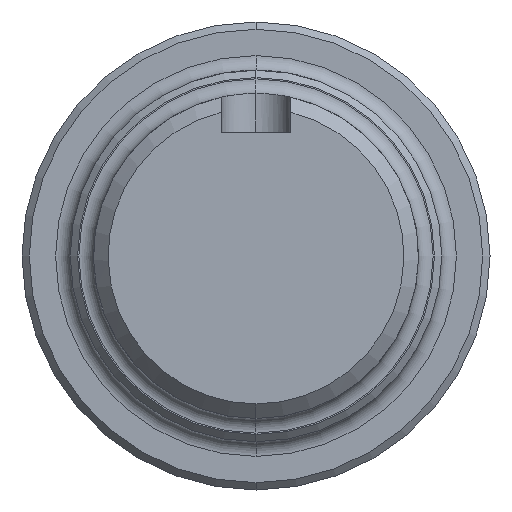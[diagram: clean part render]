
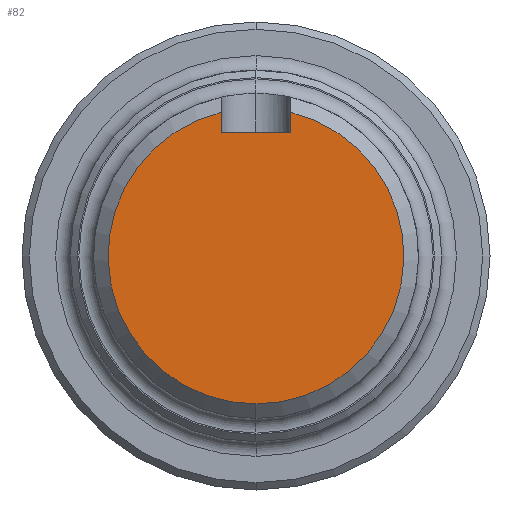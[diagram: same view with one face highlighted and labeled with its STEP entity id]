
A CAD part, left-side view. The second image highlights one B-rep face of the part: STEP entity #82.
In plain terms, the highlighted planar face has unit normal (-1, 0, 0).
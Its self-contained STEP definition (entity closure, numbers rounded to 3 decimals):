
#55 = EDGE_CURVE ( 'NONE', #1371, #1368, #136, .T. ) ;
#82 = ADVANCED_FACE ( 'NONE', ( #183 ), #1125, .T. ) ;
#136 = LINE ( 'NONE', #1281, #142 ) ;
#142 = VECTOR ( 'NONE', #1315, 1000. ) ;
#183 = FACE_OUTER_BOUND ( 'NONE', #1403, .T. ) ;
#527 = CARTESIAN_POINT ( 'NONE',  ( -122.64, 2.381, 8.463 ) ) ;
#528 = CARTESIAN_POINT ( 'NONE',  ( -122.64, 0., 0. ) ) ;
#529 = DIRECTION ( 'NONE',  ( -1., 0., 0. ) ) ;
#530 = DIRECTION ( 'NONE',  ( 0., 0., 1. ) ) ;
#532 = DIRECTION ( 'NONE',  ( 0., 0., 1. ) ) ;
#535 = CARTESIAN_POINT ( 'NONE',  ( -122.64, 0., 0. ) ) ;
#536 = DIRECTION ( 'NONE',  ( -1., 0., 0. ) ) ;
#537 = DIRECTION ( 'NONE',  ( 0., 0., 1. ) ) ;
#569 = CARTESIAN_POINT ( 'NONE',  ( -122.64, -2.381, 9.828 ) ) ;
#576 = CARTESIAN_POINT ( 'NONE',  ( -122.64, 0., -10.113 ) ) ;
#577 = CARTESIAN_POINT ( 'NONE',  ( -122.64, 2.381, 9.828 ) ) ;
#585 = CARTESIAN_POINT ( 'NONE',  ( -122.64, 2.381, 8.463 ) ) ;
#588 = CARTESIAN_POINT ( 'NONE',  ( -122.64, -2.381, 8.463 ) ) ;
#612 = DIRECTION ( 'NONE',  ( 0., 0., 1. ) ) ;
#613 = CARTESIAN_POINT ( 'NONE',  ( -122.64, -2.381, 8.463 ) ) ;
#828 = AXIS2_PLACEMENT_3D ( 'NONE', #528, #529, #530 ) ;
#829 = AXIS2_PLACEMENT_3D ( 'NONE', #535, #536, #537 ) ;
#879 = ORIENTED_EDGE ( 'NONE', *, *, #1535, .F. ) ;
#880 = ORIENTED_EDGE ( 'NONE', *, *, #55, .T. ) ;
#881 = ORIENTED_EDGE ( 'NONE', *, *, #1021, .T. ) ;
#882 = ORIENTED_EDGE ( 'NONE', *, *, #1197, .T. ) ;
#883 = ORIENTED_EDGE ( 'NONE', *, *, #1019, .T. ) ;
#1019 = EDGE_CURVE ( 'NONE', #1359, #1352, #1537, .T. ) ;
#1021 = EDGE_CURVE ( 'NONE', #1368, #1360, #1542, .T. ) ;
#1027 = DIRECTION ( 'NONE',  ( 0., 0., 1. ) ) ;
#1036 = DIRECTION ( 'NONE',  ( -1., 0., 0. ) ) ;
#1121 = CARTESIAN_POINT ( 'NONE',  ( -122.64, 0., 0. ) ) ;
#1125 = PLANE ( 'NONE',  #1711 ) ;
#1197 = EDGE_CURVE ( 'NONE', #1360, #1359, #1541, .T. ) ;
#1281 = CARTESIAN_POINT ( 'NONE',  ( -122.64, 0., 8.463 ) ) ;
#1315 = DIRECTION ( 'NONE',  ( 0., 1., 0. ) ) ;
#1352 = VERTEX_POINT ( 'NONE', #569 ) ;
#1359 = VERTEX_POINT ( 'NONE', #576 ) ;
#1360 = VERTEX_POINT ( 'NONE', #577 ) ;
#1368 = VERTEX_POINT ( 'NONE', #585 ) ;
#1371 = VERTEX_POINT ( 'NONE', #588 ) ;
#1403 = EDGE_LOOP ( 'NONE', ( #879, #880, #881, #882, #883 ) ) ;
#1535 = EDGE_CURVE ( 'NONE', #1371, #1352, #1547, .T. ) ;
#1537 = CIRCLE ( 'NONE', #828, 10.113 ) ;
#1541 = CIRCLE ( 'NONE', #829, 10.113 ) ;
#1542 = LINE ( 'NONE', #527, #1543 ) ;
#1543 = VECTOR ( 'NONE', #532, 1000. ) ;
#1547 = LINE ( 'NONE', #613, #1554 ) ;
#1554 = VECTOR ( 'NONE', #612, 1000. ) ;
#1711 = AXIS2_PLACEMENT_3D ( 'NONE', #1121, #1036, #1027 ) ;
